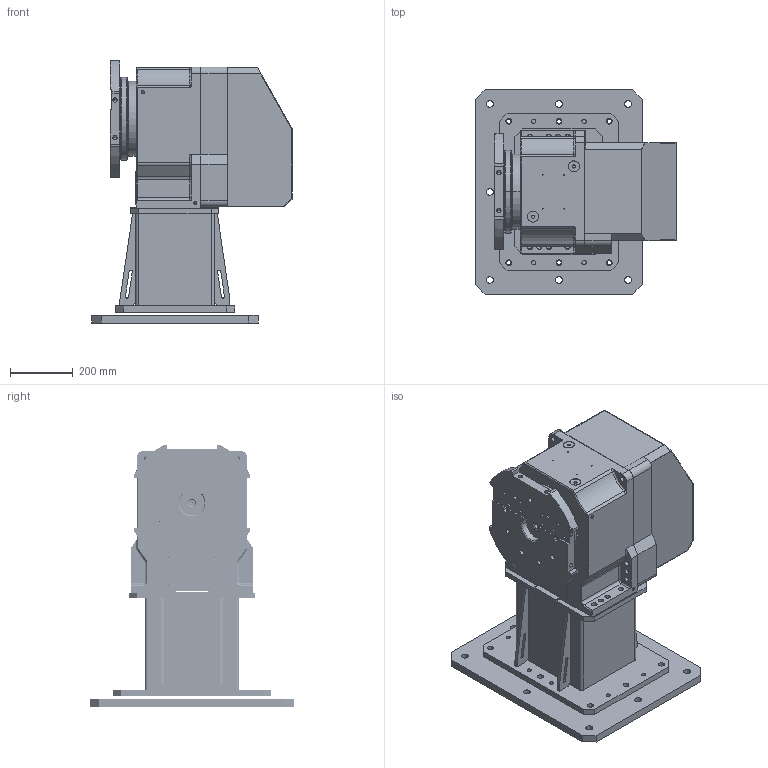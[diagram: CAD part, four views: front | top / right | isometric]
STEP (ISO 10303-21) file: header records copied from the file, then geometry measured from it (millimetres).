
FILE_DESCRIPTION(('CATIA V5 STEP Exchange','CAx-IF Rec.Pracs.--- Model Styling and Organization---1.5--- 2016-08-15','CAx-IF Rec.Pracs.---Supplemental Geometry---1.0---2011-11-01','CAx-IF Rec.Pracs.--- Composite Materials ---1.1---2010-07-15'),'2;1');
FILE_NAME('H:\2024-12-27-立式SPV-300(江苏)\3维数据\2024-12-28-STP\SY20241227-SPV-JS-00.stp','2024-12-28T03:16:22+00:00',('none'),('none'),'CATIA Version 5-6 Release 2020','CATIA V5 STEP AP214 v1','none');
FILE_SCHEMA(('AUTOMOTIVE_DESIGN { 1 0 10303 214 1 1 1 1 }'));
Products named in the file (20): SY20241227-SPV-JS-00; SY20241227-SPV-00-01; SY20240801-BSD-DZ-00-01-01; SY20240801-BSD-DZ-00-01-02; SY20240801-BSD-DZ-00-01-03; SY20240801-BSD-DZ-00-01-04; 2024-12-27-00; SY20241227-SPV-00-02; Copy (1) of SY-BJD-01; Copy (1) of Copy (1) of BX160E.1; MU_400; Copy (1) of SY20221216-YZ-01; SY20221216-YZ-02; 2024-12-28-00; 2024-12-28-01; Part1; SY20241227-SPV-00-02-00; Copy (1) of SY-BJD-01-01.7; Copy (1) of Part187498798; Copy (1) of 2022-12-16-.1
Assembly tree (22 placements, depth 4):
  SY20241227-SPV-JS-00
    SY20241227-SPV-00-01
      SY20240801-BSD-DZ-00-01-01
      SY20240801-BSD-DZ-00-01-02
      SY20240801-BSD-DZ-00-01-03
      SY20240801-BSD-DZ-00-01-04
      2024-12-27-00  x4
    SY20241227-SPV-00-02
      Copy (1) of SY-BJD-01
      Copy (1) of Copy (1) of BX160E.1
      MU_400
      Copy (1) of SY20221216-YZ-01
      SY20221216-YZ-02
      2024-12-28-00
      2024-12-28-01
      Part1
      SY20241227-SPV-00-02-00
        Copy (1) of SY-BJD-01-01.7
        Copy (1) of Part187498798
        Copy (1) of 2022-12-16-.1
Bounding box: 638.5 x 650 x 835 mm (x, y, z)
Volume: 43026184.1 mm3; surface area: 5611446.7 mm2
Topology: 17 solids, 33 shells, 3807 faces, 10043 edges, 6399 vertices
Faces by surface type: cylinder 1846, plane 1192, torus 398, cone 284, bspline 85, sphere 2
Entity records: 118966 total; most frequent: CARTESIAN_POINT 35649, ORIENTED_EDGE 19630, DIRECTION 11720, EDGE_CURVE 9861, VERTEX_POINT 6339, AXIS2_PLACEMENT_3D 5249, VECTOR 4582, LINE 4582
